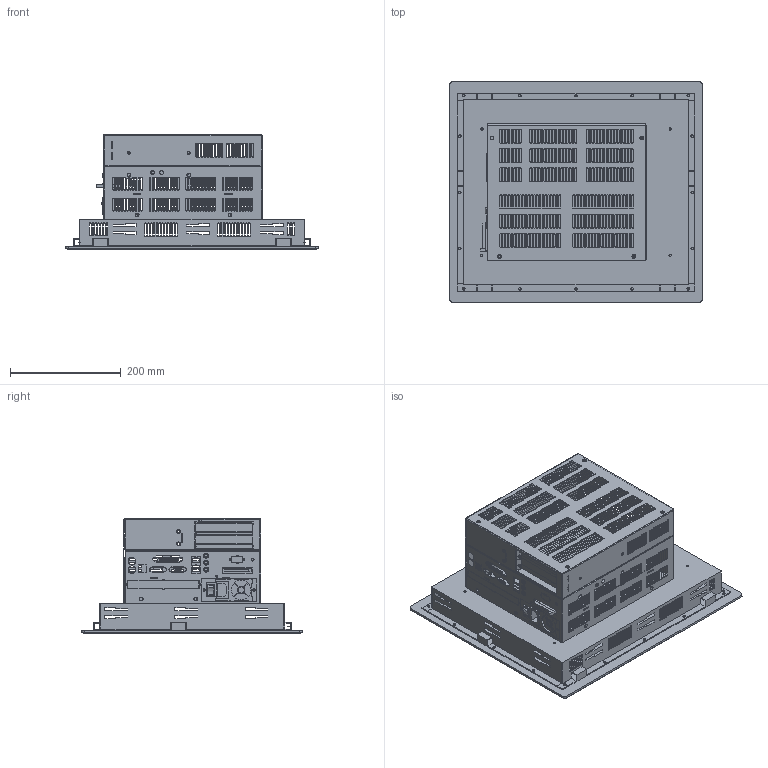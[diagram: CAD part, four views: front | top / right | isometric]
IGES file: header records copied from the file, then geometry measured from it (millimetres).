
Start section:  PTC IGES file: hp_18_pci.igs
Global section: file name: hp_18_pci.igs; native system: Pro/ENGINEER by Parametric Technology Corporation; preprocessor: 2000100; author: srollman; organization: Unknown; date: 050107.095842; units: inch
Bounding box: 456.67 x 398.78 x 208.79 mm (x, y, z)
Surface area: 769758.6 mm2 (no closed solid volume)
Topology: 0 solids, 0 shells, 184 faces, 4130 edges, 4127 vertices
Faces by surface type: bspline 143, revolution 41
